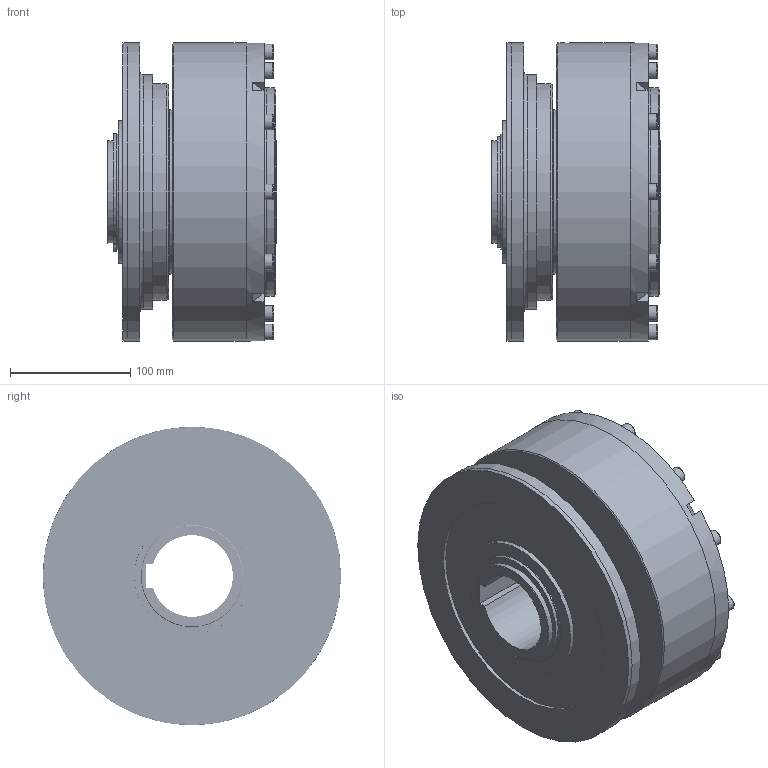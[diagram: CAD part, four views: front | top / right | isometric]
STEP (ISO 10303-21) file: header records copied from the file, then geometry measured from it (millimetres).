
FILE_DESCRIPTION(/* description */ (''),/* implementation_level */ '2;1');
FILE_NAME(/* name */ 'X:\INVENTOR\DISEGNI\03_Friz_Oleod_Pneum_Cil_Stat\03_53 MP-N\03_53_07_01 MP-N07\03_53_07_01 MP-N07@STEP.stp',/* time_stamp */ '2023-02-06T11:31:56+01:00',/* author */ ('alessio'),/* organization */ (''),/* preprocessor_version */ 'ST-DEVELOPER v18.1',/* originating_system */ 'Autodesk Inventor 2021',/* authorisation */ '');
FILE_SCHEMA (('AUTOMOTIVE_DESIGN { 1 0 10303 214 3 1 1 }'));
Products named in the file (1): 03_53_07_01 MP-N07
Bounding box: 141 x 248 x 248 mm (x, y, z)
Volume: 4168251.2 mm3; surface area: 759908 mm2
Topology: 11 solids, 43 shells, 1338 faces, 3611 edges, 2373 vertices
Faces by surface type: cylinder 549, plane 345, torus 279, bspline 88, cone 55, sphere 22
Full cylindrical faces by diameter (mm): 3.5 x4, 4 x2, 6.647 x12, 7.5 x4, 8 x12, 8.5 x12, 9.5 x36, 11 x1, 11.445 x1, 13 x12, 81.5 x2, 85 x5, 92 x1, 96 x1, 98 x1, 103 x1, 106.19 x2, 119 x2, 120 x2, 128.81 x2, 130 x1, 137 x4, 139.2 x4, 145.5 x2, 150 x3, 155 x1, 160 x1, 160.8 x4, 170 x1, 173 x1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
Entity records: 101219 total; most frequent: CARTESIAN_POINT 66131, ORIENTED_EDGE 7120, DIRECTION 7107, EDGE_CURVE 3560, AXIS2_PLACEMENT_3D 3086, VERTEX_POINT 2409, CIRCLE 1831, EDGE_LOOP 1603
